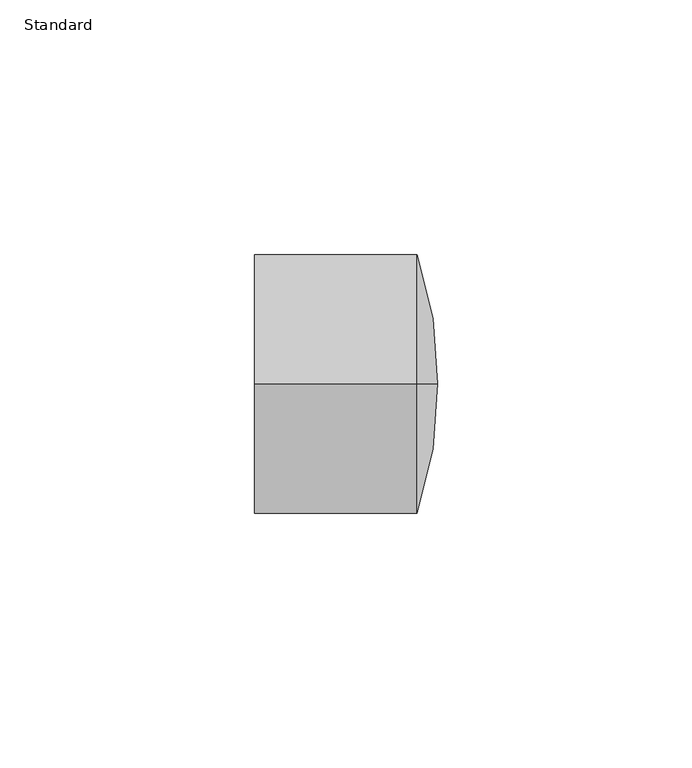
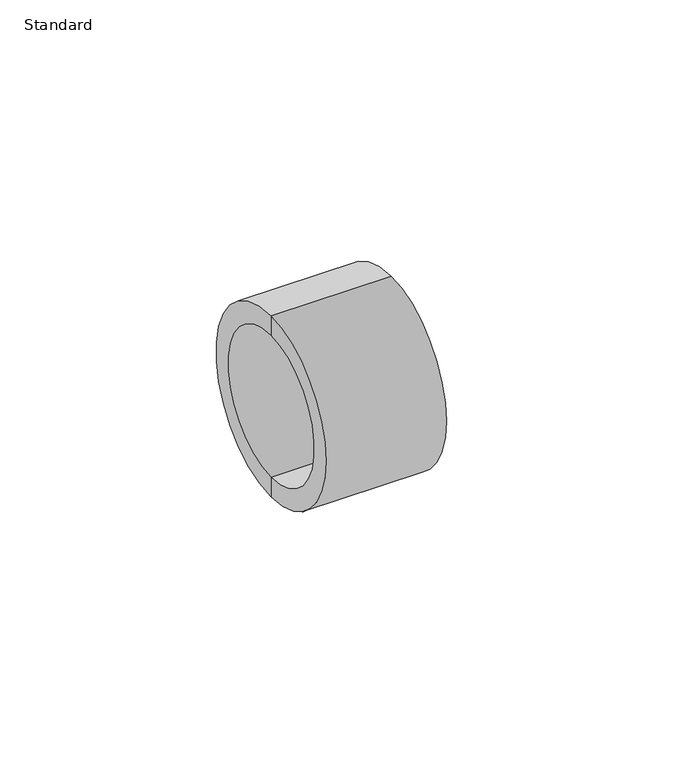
"""IFC4 building model written with IfcOpenShell, lengths in millimetres: pipe fitting geometry, Durapipe_PipeFitting_PVC_Cap : Standard."""

from ifc_helpers import new_model, si_unit, point, frame, origin, place, context, project, spatial, polyline, circle_curve, ellipse_curve, trimmed, source, transform, mapped, element, save
from ifc_brep_helpers import plane_surface, cylinder_surface, revolved_surface, advanced_brep


def standard_9e7f003c(model_context):
    return source(origin(), model_context, "Body", "AdvancedBrep", [
        advanced_brep(
        [(0.0, 0.0, 0.0), (0.0, 0.0, 20.0), (0.0, 0.0, -20.0), (6.0, 0.0, -25.5), (6.0, 0.0, 25.5), (10.0, 0.0, 0.0), (-26.0, 0.0, -25.5), (-26.0, 0.0, 25.5), (-26.0, 0.0, -20.0), (-26.0, 0.0, 20.0)],
        [
            (0, 1),
            (1, 2, circle_curve(frame((0.0, 0.0, 0.0), z_axis=(-1.0, 0.0, 0.0), x_axis=(0.0, 0.0, 1.0)), 20.0)),
            (2, 0),
            (2, 1, circle_curve(frame((0.0, 0.0, 0.0), z_axis=(-1.0, 0.0, 0.0), x_axis=(0.0, 0.0, 1.0)), 20.0)),
            (3, 4, circle_curve(frame((6.0, 0.0, 0.0), z_axis=(1.0, 0.0, 0.0), x_axis=(0.0, 0.0, 1.0)), 25.5)),
            (4, 5, circle_curve(frame((-66.1130289, 0.0, 1.1244268), z_axis=(0.0, 1.0, 0.0), x_axis=(1.0, 0.0, 0.0)), 76.1213341)),
            (5, 3, circle_curve(frame((-66.1130289, 0.0, -1.1244268), z_axis=(0.0, 1.0, 0.0), x_axis=(1.0, 0.0, 0.0)), 76.1213341)),
            (4, 3, circle_curve(frame((6.0, 0.0, 0.0), z_axis=(1.0, 0.0, 0.0), x_axis=(0.0, 0.0, 1.0)), 25.5)),
            (6, 7, circle_curve(frame((-26.0, 0.0, 0.0), z_axis=(1.0, 0.0, 0.0), x_axis=(0.0, 0.0, 1.0)), 25.5)),
            (7, 4),
            (3, 6),
            (7, 6, circle_curve(frame((-26.0, 0.0, 0.0), z_axis=(1.0, 0.0, 0.0), x_axis=(0.0, 0.0, 1.0)), 25.5)),
            (8, 9, circle_curve(frame((-26.0, 0.0, 0.0), z_axis=(1.0, 0.0, 0.0), x_axis=(0.0, 0.0, 1.0)), 20.0)),
            (9, 7),
            (6, 8),
            (9, 8, circle_curve(frame((-26.0, 0.0, 0.0), z_axis=(1.0, 0.0, 0.0), x_axis=(0.0, 0.0, 1.0)), 20.0)),
            (1, 9),
            (8, 2),
        ],
        [
            plane_surface(frame((0.0, 0.0, 0.0), z_axis=(-1.0, 0.0, 0.0), x_axis=(0.0, 0.0, 1.0))),
            revolved_surface(trimmed(ellipse_curve(frame((-66.1130289, 0.0, 1.1244268), z_axis=(0.0, -1.0, 0.0), x_axis=(1.0, 0.0, 0.0)), 76.1213341, 76.1213341), [point((10.0, 0.0, 0.0))], [point((6.0, 0.0, 25.5))], True, "CARTESIAN"), (-1525.1299635, 0.0, 0.0), (-1.0, 0.0, 0.0)),
            cylinder_surface(frame((-1525.1299635, 0.0, 0.0), z_axis=(-1.0, 0.0, 0.0), x_axis=(0.0, 0.0, 1.0)), 25.5),
            plane_surface(frame((-26.0, 0.0, 0.0), z_axis=(-1.0, 0.0, 0.0), x_axis=(0.0, 0.0, 1.0))),
            revolved_surface(polyline([(-26.0, 0.0, 20.0), (0.0, 0.0, 20.0)]), (-1525.1299635, 0.0, 0.0), (-1.0, 0.0, 0.0)),
        ],
        [
            (0, [[1, 2, 3]]),
            (0, [[-3, 4, -1]]),
            (1, [[5, 6, 7]]),
            (1, [[8, -7, -6]]),
            (2, [[9, 10, -5, 11]]),
            (2, [[12, -11, -8, -10]]),
            (3, [[13, 14, -9, 15]]),
            (3, [[16, -15, -12, -14]]),
            (4, [[-2, 17, -13, 18]]),
            (4, [[-4, -18, -16, -17]]),
        ],
    ),
    ])


if __name__ == "__main__":
    model = new_model("IFC4")
    model_context = context("Model", 3, world=origin())
    ifc_project = project(units=[si_unit("LENGTHUNIT", "METRE", prefix="MILLI")], contexts=[model_context])
    site = spatial("IfcSite", under=ifc_project)
    building = spatial("IfcBuilding", under=site)
    placement = place(None, origin())
    standard_shape = standard_9e7f003c(model_context)
    element("IfcPipeFitting", 1, ObjectType="Durapipe_PipeFitting_PVC_Cap : Standard", at=placement, inside=building, context=model_context, shape_type="MappedRepresentation", body=[
        mapped(standard_shape, transform((0.0, 0.0, 0.0), x_axis=(1.0, 0.0, 0.0), y_axis=(0.0, 1.0, 0.0), z_axis=(0.0, 0.0, 1.0))),
    ])
    save(model, "model.ifc")
